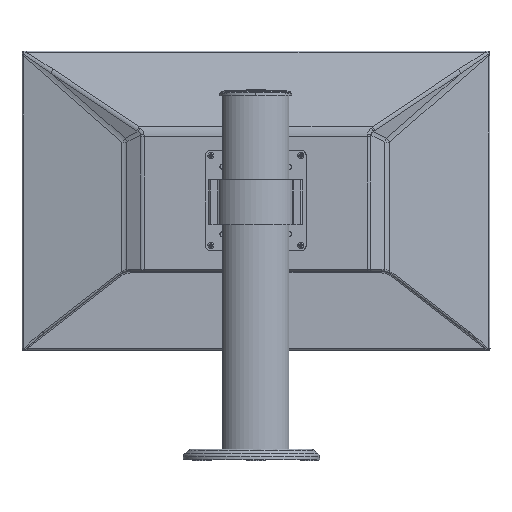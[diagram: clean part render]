
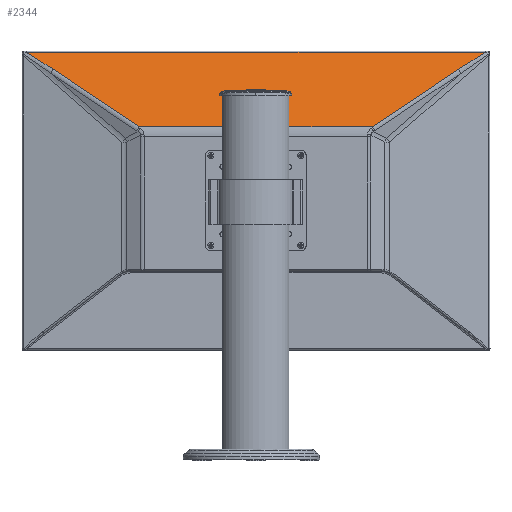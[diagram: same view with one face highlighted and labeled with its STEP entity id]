
A CAD part, left-side view. The second image highlights one B-rep face of the part: STEP entity #2344.
In plain terms, the highlighted planar face has unit normal (-0.947, 0.005, 0.322).
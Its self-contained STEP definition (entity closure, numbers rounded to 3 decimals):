
#167 = DIRECTION ( 'NONE',  ( -0.947, 0.005, 0.322 ) ) ;
#1599 = CARTESIAN_POINT ( 'NONE',  ( 119.239, -129.8, 371.313 ) ) ;
#1749 = CARTESIAN_POINT ( 'NONE',  ( 149.419, 255.137, 454.368 ) ) ;
#2344 = ADVANCED_FACE ( 'NONE', ( #53938 ), #29616, .T. ) ;
#2453 = AXIS2_PLACEMENT_3D ( 'NONE', #64694, #167, #70555 ) ;
#2466 = CARTESIAN_POINT ( 'NONE',  ( 120.547, 129.46, 371.297 ) ) ;
#3314 = CARTESIAN_POINT ( 'NONE',  ( 146.839, -255.752, 454.401 ) ) ;
#4318 = CARTESIAN_POINT ( 'NONE',  ( 145.131, 235.191, 442.047 ) ) ;
#4568 = CARTESIAN_POINT ( 'NONE',  ( 119.239, -129.8, 371.313 ) ) ;
#9202 = CARTESIAN_POINT ( 'NONE',  ( 144.839, -245.669, 448.365 ) ) ;
#10196 = CARTESIAN_POINT ( 'NONE',  ( 147.312, 245.087, 448.316 ) ) ;
#14219 = VERTEX_POINT ( 'NONE', #4568 ) ;
#14557 = VERTEX_POINT ( 'NONE', #41174 ) ;
#15041 = ORIENTED_EDGE ( 'NONE', *, *, #75795, .F. ) ;
#15089 = CARTESIAN_POINT ( 'NONE',  ( 141.685, -230.864, 438.864 ) ) ;
#16073 = CARTESIAN_POINT ( 'NONE',  ( 148.904, 252.6, 452.89 ) ) ;
#16712 = EDGE_CURVE ( 'NONE', #57667, #32691, #31400, .T. ) ;
#17965 = CARTESIAN_POINT ( 'NONE',  ( 142.884, 225.441, 435.58 ) ) ;
#18969 = CARTESIAN_POINT ( 'NONE',  ( 140.603, -225.994, 435.609 ) ) ;
#19236 = B_SPLINE_CURVE_WITH_KNOTS ( 'NONE', 3,
 ( #74461, #33521, #4318, #45298, #10196, #51183, #16073, #57075 ),
 .UNSPECIFIED., .F., .F.,
 ( 4, 2, 2, 4 ),
 ( 0., 0.5, 0.75, 1. ),
 .UNSPECIFIED. ) ;
#20527 = ORIENTED_EDGE ( 'NONE', *, *, #16712, .T. ) ;
#22385 = B_SPLINE_CURVE_WITH_KNOTS ( 'NONE', 3,
 ( #32184, #37822, #61622, #26529 ),
 .UNSPECIFIED., .F., .F.,
 ( 4, 4 ),
 ( 0., 1. ),
 .UNSPECIFIED. ) ;
#25300 = CARTESIAN_POINT ( 'NONE',  ( 147.699, -85.456, 454.39 ) ) ;
#25693 = CARTESIAN_POINT ( 'NONE',  ( 149.419, 255.137, 454.368 ) ) ;
#26529 = CARTESIAN_POINT ( 'NONE',  ( 120.547, 129.46, 371.297 ) ) ;
#28454 = ORIENTED_EDGE ( 'NONE', *, *, #50473, .F. ) ;
#29068 = VERTEX_POINT ( 'NONE', #51383 ) ;
#29260 = EDGE_CURVE ( 'NONE', #14219, #32691, #22385, .T. ) ;
#29616 = PLANE ( 'NONE',  #2453 ) ;
#30343 = B_SPLINE_CURVE_WITH_KNOTS ( 'NONE', 3,
 ( #3314, #38439, #9202, #50196, #15089, #56091 ),
 .UNSPECIFIED., .F., .F.,
 ( 4, 2, 4 ),
 ( -1., -0.5, 0. ),
 .UNSPECIFIED. ) ;
#31400 = B_SPLINE_CURVE_WITH_KNOTS ( 'NONE', 3,
 ( #72605, #54740, #66738, #2466 ),
 .UNSPECIFIED., .F., .F.,
 ( 4, 4 ),
 ( 0., 1. ),
 .UNSPECIFIED. ) ;
#32184 = CARTESIAN_POINT ( 'NONE',  ( 119.239, -129.8, 371.313 ) ) ;
#32691 = VERTEX_POINT ( 'NONE', #51548 ) ;
#33521 = CARTESIAN_POINT ( 'NONE',  ( 144.014, 230.3, 438.834 ) ) ;
#36677 = CARTESIAN_POINT ( 'NONE',  ( 126.36, -161.865, 392.745 ) ) ;
#36820 = CARTESIAN_POINT ( 'NONE',  ( 148.559, 84.84, 454.379 ) ) ;
#37822 = CARTESIAN_POINT ( 'NONE',  ( 119.676, -43.38, 371.307 ) ) ;
#38439 = CARTESIAN_POINT ( 'NONE',  ( 145.859, -250.668, 451.445 ) ) ;
#40954 = B_SPLINE_CURVE_WITH_KNOTS ( 'NONE', 3,
 ( #18969, #59981, #36677, #1599 ),
 .UNSPECIFIED., .F., .F.,
 ( 4, 4 ),
 ( 0., 1. ),
 .UNSPECIFIED. ) ;
#41174 = CARTESIAN_POINT ( 'NONE',  ( 146.839, -255.752, 454.401 ) ) ;
#45298 = CARTESIAN_POINT ( 'NONE',  ( 146.771, 242.603, 446.762 ) ) ;
#50196 = CARTESIAN_POINT ( 'NONE',  ( 142.752, -235.766, 442.077 ) ) ;
#50473 = EDGE_CURVE ( 'NONE', #29068, #14219, #40954, .T. ) ;
#51183 = CARTESIAN_POINT ( 'NONE',  ( 148.378, 250.085, 451.381 ) ) ;
#51383 = CARTESIAN_POINT ( 'NONE',  ( 140.603, -225.994, 435.609 ) ) ;
#51548 = CARTESIAN_POINT ( 'NONE',  ( 120.547, 129.46, 371.297 ) ) ;
#51864 = VERTEX_POINT ( 'NONE', #25693 ) ;
#53938 = FACE_OUTER_BOUND ( 'NONE', #56563, .T. ) ;
#54740 = CARTESIAN_POINT ( 'NONE',  ( 135.439, 193.447, 414.152 ) ) ;
#56091 = CARTESIAN_POINT ( 'NONE',  ( 140.603, -225.994, 435.609 ) ) ;
#56563 = EDGE_LOOP ( 'NONE', ( #15041, #72604, #20527, #69467, #28454, #63894 ) ) ;
#57075 = CARTESIAN_POINT ( 'NONE',  ( 149.419, 255.137, 454.368 ) ) ;
#57667 = VERTEX_POINT ( 'NONE', #17965 ) ;
#59981 = CARTESIAN_POINT ( 'NONE',  ( 133.482, -193.93, 414.177 ) ) ;
#61622 = CARTESIAN_POINT ( 'NONE',  ( 120.112, 43.04, 371.302 ) ) ;
#62450 = B_SPLINE_CURVE_WITH_KNOTS ( 'NONE', 3,
 ( #1749, #36820, #25300, #66263 ),
 .UNSPECIFIED., .F., .F.,
 ( 4, 4 ),
 ( 0., 1. ),
 .UNSPECIFIED. ) ;
#63894 = ORIENTED_EDGE ( 'NONE', *, *, #64818, .F. ) ;
#64694 = CARTESIAN_POINT ( 'NONE',  ( 98.93, -307.742, 314.213 ) ) ;
#64818 = EDGE_CURVE ( 'NONE', #14557, #29068, #30343, .T. ) ;
#66263 = CARTESIAN_POINT ( 'NONE',  ( 146.839, -255.752, 454.401 ) ) ;
#66738 = CARTESIAN_POINT ( 'NONE',  ( 127.994, 161.453, 392.724 ) ) ;
#69467 = ORIENTED_EDGE ( 'NONE', *, *, #29260, .F. ) ;
#70555 = DIRECTION ( 'NONE',  ( 0.322, -0.002, 0.947 ) ) ;
#72604 = ORIENTED_EDGE ( 'NONE', *, *, #75309, .F. ) ;
#72605 = CARTESIAN_POINT ( 'NONE',  ( 142.884, 225.441, 435.58 ) ) ;
#74461 = CARTESIAN_POINT ( 'NONE',  ( 142.884, 225.441, 435.58 ) ) ;
#75309 = EDGE_CURVE ( 'NONE', #57667, #51864, #19236, .T. ) ;
#75795 = EDGE_CURVE ( 'NONE', #51864, #14557, #62450, .T. ) ;
